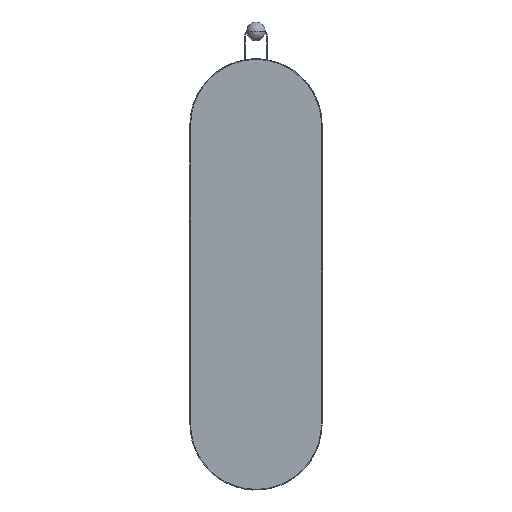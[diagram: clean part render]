
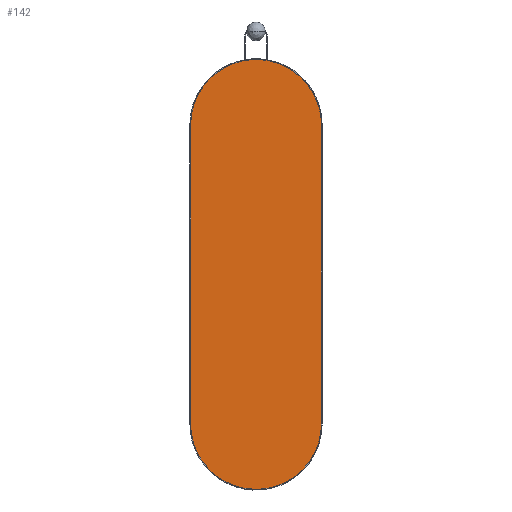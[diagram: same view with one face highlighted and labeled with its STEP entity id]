
A CAD part, front view. The second image highlights one B-rep face of the part: STEP entity #142.
In plain terms, the highlighted free-form (B-spline) face has degree [1, 1] with [2, 2] control points.
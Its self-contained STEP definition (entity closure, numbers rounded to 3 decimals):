
#142=ADVANCED_FACE('',(#262),#3972,.T.);
#262=FACE_OUTER_BOUND('',#388,.T.);
#388=EDGE_LOOP('',(#916,#917));
#916=ORIENTED_EDGE('',*,*,#3510,.F.);
#917=ORIENTED_EDGE('',*,*,#3512,.T.);
#1519=PCURVE('',#4058,#2125);
#1522=PCURVE('',#3972,#2128);
#1523=PCURVE('',#3972,#2129);
#1526=PCURVE('',#4059,#2132);
#2125=DEFINITIONAL_REPRESENTATION('',(#2811),#23164);
#2128=DEFINITIONAL_REPRESENTATION('',(#3734),#23164);
#2129=DEFINITIONAL_REPRESENTATION('',(#3736),#23164);
#2132=DEFINITIONAL_REPRESENTATION('',(#2817),#23164);
#2811=B_SPLINE_CURVE_WITH_KNOTS('',1,(#22632,#22633),.UNSPECIFIED.,.F.,
 .F.,(2,2),(2159.646,3239.469),.UNSPECIFIED.);
#2817=B_SPLINE_CURVE_WITH_KNOTS('',1,(#22665,#22666),.UNSPECIFIED.,.F.,
 .F.,(2,2),(-2159.646,-1079.823),.UNSPECIFIED.);
#3207=SURFACE_CURVE('',#3733,(#1519,#1522),.PCURVE_S1.);
#3209=SURFACE_CURVE('',#3735,(#1523,#1526),.PCURVE_S1.);
#3510=EDGE_CURVE('',#3911,#3909,#3207,.T.);
#3512=EDGE_CURVE('',#3911,#3909,#3209,.T.);
#3733=(
BOUNDED_CURVE()
B_SPLINE_CURVE(2,(#22625,#22626,#22627,#22628,#22629,#22630,#22631),
 .UNSPECIFIED.,.F.,.F.)
B_SPLINE_CURVE_WITH_KNOTS((3,2,2,3),(2159.646,2379.557,
2599.469,3239.469),.UNSPECIFIED.)
CURVE()
GEOMETRIC_REPRESENTATION_ITEM()
RATIONAL_B_SPLINE_CURVE((1.,0.707,1.,0.707,1.,1.,
1.))
REPRESENTATION_ITEM('')
);
#3734=(
BOUNDED_CURVE()
B_SPLINE_CURVE(2,(#22640,#22641,#22642,#22643,#22644,#22645,#22646),
 .UNSPECIFIED.,.F.,.F.)
B_SPLINE_CURVE_WITH_KNOTS((3,2,2,3),(2159.646,2379.557,
2599.469,3239.469),.UNSPECIFIED.)
CURVE()
GEOMETRIC_REPRESENTATION_ITEM()
RATIONAL_B_SPLINE_CURVE((1.,0.707,1.,0.707,1.,1.,
1.))
REPRESENTATION_ITEM('')
);
#3735=(
BOUNDED_CURVE()
B_SPLINE_CURVE(2,(#22647,#22648,#22649,#22650,#22651,#22652,#22653),
 .UNSPECIFIED.,.F.,.F.)
B_SPLINE_CURVE_WITH_KNOTS((3,2,2,3),(-2159.646,-1519.646,
-1299.734,-1079.823),.UNSPECIFIED.)
CURVE()
GEOMETRIC_REPRESENTATION_ITEM()
RATIONAL_B_SPLINE_CURVE((1.,1.,1.,0.707,1.,0.707,
1.))
REPRESENTATION_ITEM('')
);
#3736=(
BOUNDED_CURVE()
B_SPLINE_CURVE(2,(#22654,#22655,#22656,#22657,#22658,#22659,#22660),
 .UNSPECIFIED.,.F.,.F.)
B_SPLINE_CURVE_WITH_KNOTS((3,2,2,3),(-2159.646,-1519.646,
-1299.734,-1079.823),.UNSPECIFIED.)
CURVE()
GEOMETRIC_REPRESENTATION_ITEM()
RATIONAL_B_SPLINE_CURVE((1.,1.,1.,0.707,1.,0.707,
1.))
REPRESENTATION_ITEM('')
);
#3909=VERTEX_POINT('',#22590);
#3911=VERTEX_POINT('',#22592);
#3972=B_SPLINE_SURFACE_WITH_KNOTS('',1,1,((#22571,#22572),(#22573,#22574)),
 .UNSPECIFIED.,.F.,.F.,.F.,(2,2),(2,2),(-789.2,149.2),(-282.8,
2.8),.UNSPECIFIED.);
#4058=(
BOUNDED_SURFACE()
B_SPLINE_SURFACE(2,1,((#22557,#22558),(#22559,#22560),(#22561,#22562),(#22563,
#22564),(#22565,#22566),(#22567,#22568),(#22569,#22570)),.UNSPECIFIED.,
 .F.,.F.,.F.)
B_SPLINE_SURFACE_WITH_KNOTS((3,2,2,3),(2,2),(-3239.469,-2599.469,
-2379.557,-2159.646),(0.,1.),.UNSPECIFIED.)
GEOMETRIC_REPRESENTATION_ITEM()
RATIONAL_B_SPLINE_SURFACE(((1.,1.),(1.,1.),(1.,1.),(0.707,0.707),
(1.,1.),(0.707,0.707),(1.,1.)))
REPRESENTATION_ITEM('')
SURFACE()
);
#4059=(
BOUNDED_SURFACE()
B_SPLINE_SURFACE(2,1,((#22575,#22576),(#22577,#22578),(#22579,#22580),(#22581,
#22582),(#22583,#22584),(#22585,#22586),(#22587,#22588)),.UNSPECIFIED.,
 .F.,.F.,.F.)
B_SPLINE_SURFACE_WITH_KNOTS((3,2,2,3),(2,2),(-2159.646,-1519.646,
-1299.734,-1079.823),(0.,1.),.UNSPECIFIED.)
GEOMETRIC_REPRESENTATION_ITEM()
RATIONAL_B_SPLINE_SURFACE(((1.,1.),(1.,1.),(1.,1.),(0.707,0.707),
(1.,1.),(0.707,0.707),(1.,1.)))
REPRESENTATION_ITEM('')
SURFACE()
);
#22557=CARTESIAN_POINT('',(155.724,-19.438,1153.964));
#22558=CARTESIAN_POINT('',(155.724,-23.438,1153.964));
#22559=CARTESIAN_POINT('',(155.724,-19.438,1473.964));
#22560=CARTESIAN_POINT('',(155.724,-23.438,1473.964));
#22561=CARTESIAN_POINT('',(155.724,-19.438,1793.964));
#22562=CARTESIAN_POINT('',(155.724,-23.438,1793.964));
#22563=CARTESIAN_POINT('',(155.724,-19.438,1933.964));
#22564=CARTESIAN_POINT('',(155.724,-23.438,1933.964));
#22565=CARTESIAN_POINT('',(15.724,-19.438,1933.964));
#22566=CARTESIAN_POINT('',(15.724,-23.438,1933.964));
#22567=CARTESIAN_POINT('',(-124.276,-19.438,1933.964));
#22568=CARTESIAN_POINT('',(-124.276,-23.438,1933.964));
#22569=CARTESIAN_POINT('',(-124.276,-19.438,1793.964));
#22570=CARTESIAN_POINT('',(-124.276,-23.438,1793.964));
#22571=CARTESIAN_POINT('',(-127.076,-23.438,1943.164));
#22572=CARTESIAN_POINT('',(158.524,-23.438,1943.164));
#22573=CARTESIAN_POINT('',(-127.076,-23.438,1004.764));
#22574=CARTESIAN_POINT('',(158.524,-23.438,1004.764));
#22575=CARTESIAN_POINT('',(-124.276,-19.438,1793.964));
#22576=CARTESIAN_POINT('',(-124.276,-23.438,1793.964));
#22577=CARTESIAN_POINT('',(-124.276,-19.438,1473.964));
#22578=CARTESIAN_POINT('',(-124.276,-23.438,1473.964));
#22579=CARTESIAN_POINT('',(-124.276,-19.438,1153.964));
#22580=CARTESIAN_POINT('',(-124.276,-23.438,1153.964));
#22581=CARTESIAN_POINT('',(-124.276,-19.438,1013.964));
#22582=CARTESIAN_POINT('',(-124.276,-23.438,1013.964));
#22583=CARTESIAN_POINT('',(15.724,-19.438,1013.964));
#22584=CARTESIAN_POINT('',(15.724,-23.438,1013.964));
#22585=CARTESIAN_POINT('',(155.724,-19.438,1013.964));
#22586=CARTESIAN_POINT('',(155.724,-23.438,1013.964));
#22587=CARTESIAN_POINT('',(155.724,-19.438,1153.964));
#22588=CARTESIAN_POINT('',(155.724,-23.438,1153.964));
#22590=CARTESIAN_POINT('',(155.724,-23.438,1153.964));
#22592=CARTESIAN_POINT('',(-124.276,-23.438,1793.964));
#22625=CARTESIAN_POINT('',(-124.276,-23.438,1793.964));
#22626=CARTESIAN_POINT('',(-124.276,-23.438,1933.964));
#22627=CARTESIAN_POINT('',(15.724,-23.438,1933.964));
#22628=CARTESIAN_POINT('',(155.724,-23.438,1933.964));
#22629=CARTESIAN_POINT('',(155.724,-23.438,1793.964));
#22630=CARTESIAN_POINT('',(155.724,-23.438,1473.964));
#22631=CARTESIAN_POINT('',(155.724,-23.438,1153.964));
#22632=CARTESIAN_POINT('',(-2159.646,1.));
#22633=CARTESIAN_POINT('',(-3239.469,1.));
#22640=CARTESIAN_POINT('',(-640.,-280.));
#22641=CARTESIAN_POINT('',(-780.,-280.));
#22642=CARTESIAN_POINT('',(-780.,-140.));
#22643=CARTESIAN_POINT('',(-780.,0.));
#22644=CARTESIAN_POINT('',(-640.,0.));
#22645=CARTESIAN_POINT('',(-320.,0.));
#22646=CARTESIAN_POINT('',(0.,0.));
#22647=CARTESIAN_POINT('',(-124.276,-23.438,1793.964));
#22648=CARTESIAN_POINT('',(-124.276,-23.438,1473.964));
#22649=CARTESIAN_POINT('',(-124.276,-23.438,1153.964));
#22650=CARTESIAN_POINT('',(-124.276,-23.438,1013.964));
#22651=CARTESIAN_POINT('',(15.724,-23.438,1013.964));
#22652=CARTESIAN_POINT('',(155.724,-23.438,1013.964));
#22653=CARTESIAN_POINT('',(155.724,-23.438,1153.964));
#22654=CARTESIAN_POINT('',(-640.,-280.));
#22655=CARTESIAN_POINT('',(-320.,-280.));
#22656=CARTESIAN_POINT('',(0.,-280.));
#22657=CARTESIAN_POINT('',(140.,-280.));
#22658=CARTESIAN_POINT('',(140.,-140.));
#22659=CARTESIAN_POINT('',(140.,0.));
#22660=CARTESIAN_POINT('',(0.,0.));
#22665=CARTESIAN_POINT('',(-2159.646,1.));
#22666=CARTESIAN_POINT('',(-1079.823,1.));
#23164=(
GEOMETRIC_REPRESENTATION_CONTEXT(2)
PARAMETRIC_REPRESENTATION_CONTEXT()
REPRESENTATION_CONTEXT('pspace','')
);
